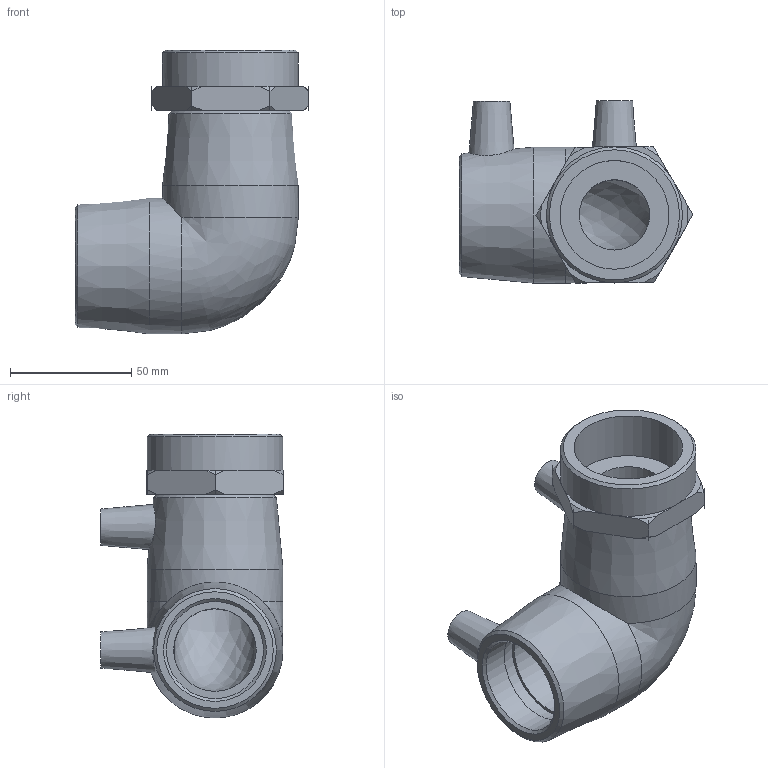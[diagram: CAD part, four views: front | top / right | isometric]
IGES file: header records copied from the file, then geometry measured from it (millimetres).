
Global section: file name: 493504040015.ipt; native system: Autodesk Inventor 2015; preprocessor: unknown; author: KIM; date: 20200202.123459; units: millimetre
Bounding box: 96.33 x 75.08 x 117 mm (x, y, z)
Volume: 203290.7 mm3; surface area: 51375.2 mm2
Topology: 2 solids, 2 shells, 76 faces, 215 edges, 150 vertices
Faces by surface type: plane 27, revolution 22, cone 19, cylinder 7, bspline 1
Full cylindrical faces by diameter (mm): 4 x2, 40 x2, 56 x3
